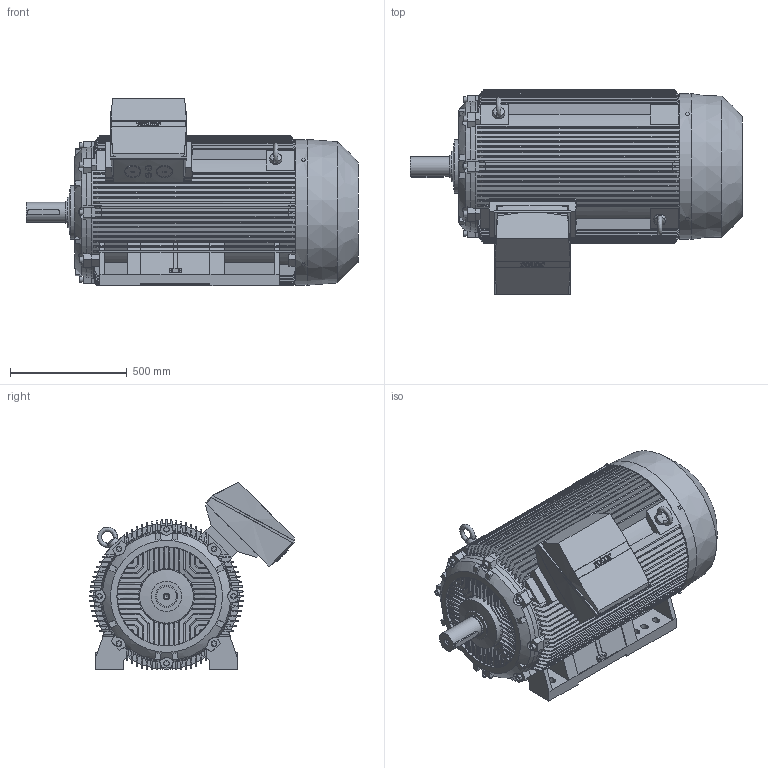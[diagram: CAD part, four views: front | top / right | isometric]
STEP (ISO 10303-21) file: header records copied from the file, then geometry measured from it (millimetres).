
FILE_DESCRIPTION (( 'STEP AP214' ), '1' );
FILE_NAME ('7RN315L08E37 IM1001_Rev.1A.STEP', '2018-09-28T12:46:17', ( 'rbc_ict' ), ( '' ), 'SwSTEP 2.0', 'SolidWorks 2015', '' );
FILE_SCHEMA (( 'AUTOMOTIVE_DESIGN' ));
Length unit declared in the file: millimetre
Products named in the file (1): 7RN315L08E37 IM1001_Rev.1A
Bounding box: 1422 x 877.5 x 804.32 mm (x, y, z)
Volume: 373510023.5 mm3; surface area: 8580078.5 mm2
Topology: 1 solids, 1 shells, 1607 faces, 4542 edges, 3002 vertices
Faces by surface type: plane 1095, cylinder 254, bspline 231, cone 27
Full cylindrical faces by diameter (mm): 8 x8, 11.5 x4, 16 x2, 20 x1, 24 x8, 26 x2, 50 x2, 60 x2, 70 x2, 85 x1, 95 x1, 130 x1, 230 x1, 425 x1, 624 x1
Entity records: 80952 total; most frequent: CARTESIAN_POINT 25670, ORIENTED_EDGE 8950, DIRECTION 6627, EDGE_CURVE 4475, VERTEX_POINT 2982, VECTOR 2733, LINE 2733, AXIS2_PLACEMENT_3D 1947
